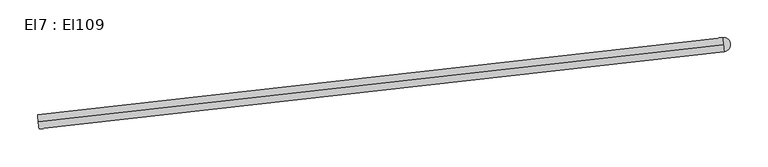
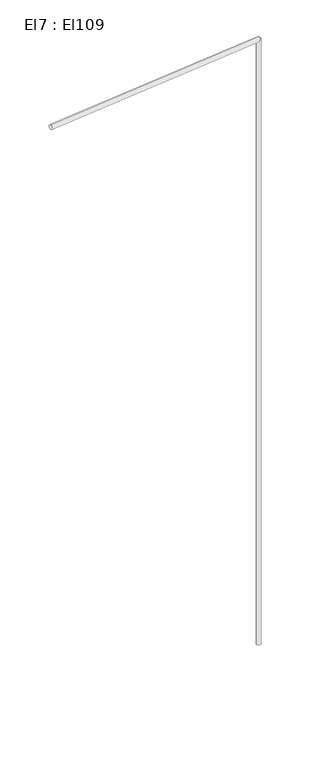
"""IFC4 building model written with IfcOpenShell, lengths in millimetres: cable carrier segment geometry, El7 : El109."""

from ifc_helpers import new_model, si_unit, point, frame, frame_2d, origin, place, context, project, spatial, circle_curve, trimmed, segment, composite_curve, outline, extrude, source, transform, mapped, element, save


def el7_el109_4a5f97cc(model_context):
    return source(origin(), model_context, "Body", "SweptSolid", [
        extrude(outline(composite_curve([segment(trimmed(circle_curve(frame_2d((31444.4446511, 8291.7741745)), 9.5), [point((31434.9446511, 8291.7741745))], [point((31453.9446511, 8291.7741745))], False, "CARTESIAN"), True, "CONTINUOUS"), segment(trimmed(circle_curve(frame_2d((31444.4446511, 8291.7741745)), 9.5), [point((31453.9446511, 8291.7741745))], [point((31434.9446511, 8291.7741745))], False, "CARTESIAN"), True, "CONTINUOUS")], self_intersect=False)), frame((0.0, 0.0, 1830.0), z_axis=(0.0, 0.0, 1.0), x_axis=(1.0, 0.0, 0.0)), (0.0, 0.0, 1.0), 2620.0),
        extrude(outline(composite_curve([segment(trimmed(circle_curve(frame_2d((0.0, -9.5)), 9.5), [point((0.0, -19.0))], [point((0.0, 0.0))], False, "CARTESIAN"), True, "CONTINUOUS"), segment(trimmed(circle_curve(frame_2d((0.0, -9.5)), 9.5), [point((0.0, 0.0))], [point((0.0, -19.0))], False, "CARTESIAN"), True, "CONTINUOUS")], self_intersect=False)), frame((30531.2696511, 8188.7903745, 4459.5), z_axis=(0.9937008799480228, 0.1120649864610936, 0.0), x_axis=(-0.1120649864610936, 0.9937008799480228, 0.0)), (0.0, 0.0, 1.0), 918.963),
    ])


if __name__ == "__main__":
    model = new_model("IFC4")
    model_context = context("Model", 3, world=origin())
    ifc_project = project(units=[si_unit("LENGTHUNIT", "METRE", prefix="MILLI")], contexts=[model_context])
    site = spatial("IfcSite", under=ifc_project)
    building = spatial("IfcBuilding", under=site)
    placement = place(None, origin())
    el7_el109_shape = el7_el109_4a5f97cc(model_context)
    element("IfcCableCarrierSegment", 1, ObjectType="El7 : El109", at=placement, inside=building, context=model_context, shape_type="MappedRepresentation", body=[
        mapped(el7_el109_shape, transform((0.0, 0.0, 0.0), x_axis=(1.0, 0.0, 0.0), y_axis=(0.0, 1.0, 0.0), z_axis=(0.0, 0.0, 1.0))),
    ])
    save(model, "model.ifc")
